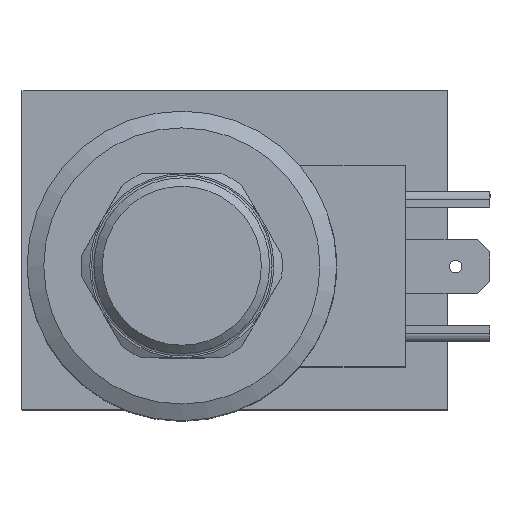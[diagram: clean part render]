
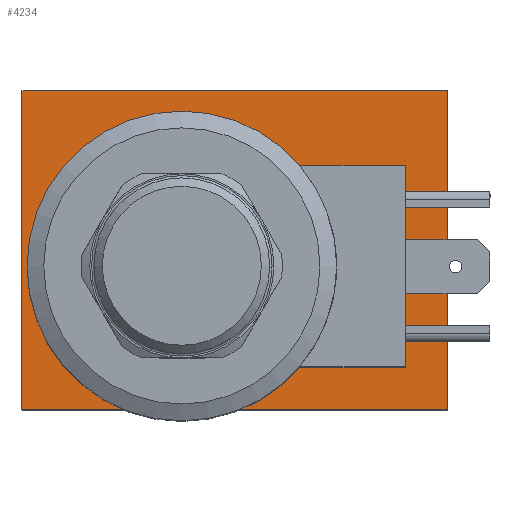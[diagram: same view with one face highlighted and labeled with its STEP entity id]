
A CAD part, top view. The second image highlights one B-rep face of the part: STEP entity #4234.
In plain terms, the highlighted planar face has unit normal (0, 0, 1).
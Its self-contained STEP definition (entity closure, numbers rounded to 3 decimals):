
#245=LINE('',#8195,#450);
#247=LINE('',#8199,#452);
#250=LINE('',#8207,#455);
#251=LINE('',#8209,#456);
#450=VECTOR('',#6295,1000.);
#452=VECTOR('',#6299,1000.);
#455=VECTOR('',#6306,1000.);
#456=VECTOR('',#6309,1000.);
#1413=ORIENTED_EDGE('',*,*,#2230,.T.);
#1414=ORIENTED_EDGE('',*,*,#2229,.T.);
#1415=ORIENTED_EDGE('',*,*,#2228,.F.);
#1416=ORIENTED_EDGE('',*,*,#2224,.F.);
#1417=ORIENTED_EDGE('',*,*,#2222,.T.);
#2222=EDGE_CURVE('',#2702,#2701,#245,.T.);
#2224=EDGE_CURVE('',#2702,#2703,#247,.T.);
#2228=EDGE_CURVE('',#2703,#2705,#250,.T.);
#2229=EDGE_CURVE('',#2701,#2705,#251,.T.);
#2230=EDGE_CURVE('',#2706,#2706,#2998,.T.);
#2701=VERTEX_POINT('',#8194);
#2702=VERTEX_POINT('',#8196);
#2703=VERTEX_POINT('',#8200);
#2705=VERTEX_POINT('',#8206);
#2706=VERTEX_POINT('',#8212);
#2998=CIRCLE('',#5394,15.088);
#3332=EDGE_LOOP('',(#1413));
#3333=EDGE_LOOP('',(#1414,#1415,#1416,#1417));
#3764=FACE_BOUND('',#3332,.T.);
#3765=FACE_BOUND('',#3333,.T.);
#3969=PLANE('',#5393);
#4234=ADVANCED_FACE('',(#3764,#3765),#3969,.F.);
#5393=AXIS2_PLACEMENT_3D('',#8210,#6310,#6311);
#5394=AXIS2_PLACEMENT_3D('',#8211,#6312,#6313);
#6295=DIRECTION('',(0.,-1.,0.));
#6299=DIRECTION('',(1.,0.,0.));
#6306=DIRECTION('',(0.,-1.,0.));
#6309=DIRECTION('',(1.,0.,0.));
#6310=DIRECTION('',(0.,0.,-1.));
#6311=DIRECTION('',(-1.,0.,0.));
#6312=DIRECTION('',(0.,0.,-1.));
#6313=DIRECTION('',(0.,-1.,0.));
#8194=CARTESIAN_POINT('',(-0.2,0.,0.));
#8195=CARTESIAN_POINT('',(-0.2,38.1,0.));
#8196=CARTESIAN_POINT('',(-0.2,38.1,0.));
#8199=CARTESIAN_POINT('',(-0.2,38.1,0.));
#8200=CARTESIAN_POINT('',(50.6,38.1,0.));
#8206=CARTESIAN_POINT('',(50.6,0.,0.));
#8207=CARTESIAN_POINT('',(50.6,38.1,0.));
#8209=CARTESIAN_POINT('',(-0.2,0.,0.));
#8210=CARTESIAN_POINT('',(-0.2,38.1,0.));
#8211=CARTESIAN_POINT('',(18.9,17.,0.));
#8212=CARTESIAN_POINT('',(18.9,1.912,0.));
